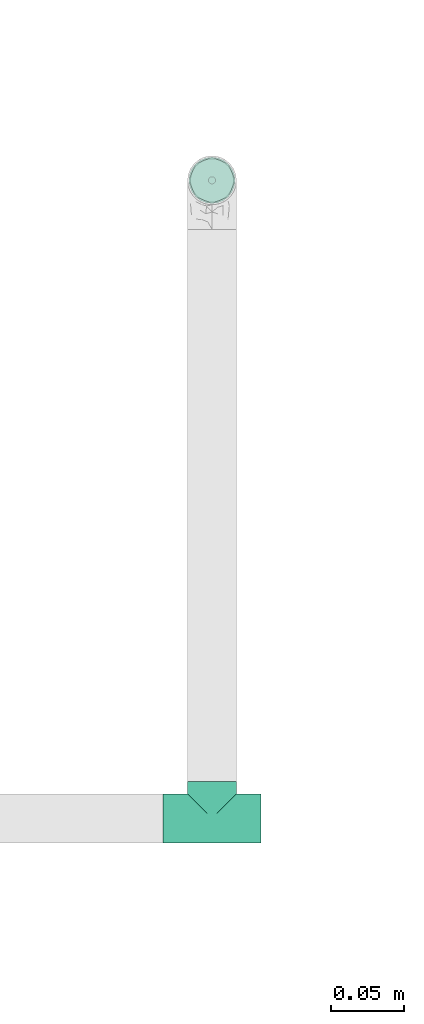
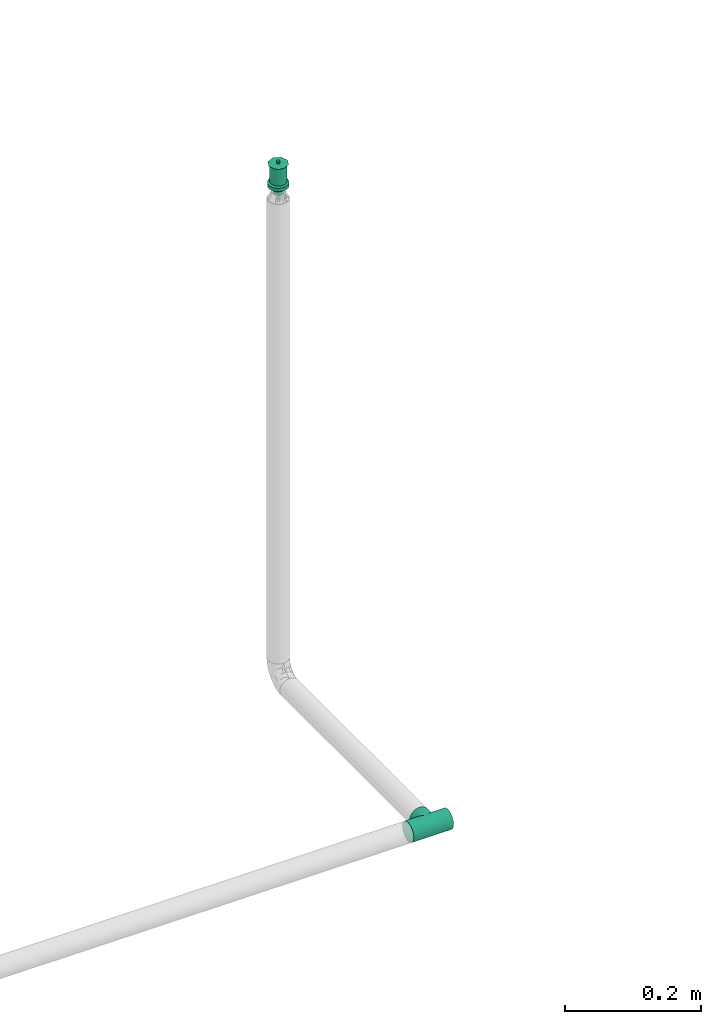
# One storey, part 71 of 94: 1 flow fitting, 1 flow terminal.
"""IFC2X3 building model written with IfcOpenShell, lengths in millimetres."""

from ifc_helpers import new_model, entity, si_unit, converted_unit, derived_unit, direction, frame, origin_with_axes, place, context, subcontext, project, spatial, open_shell, surface_model, source, transform, mapped, type_object, element, save


model = new_model("IFC2X3")

# Units and contexts
model_context = context("Model", 3, precision=0.01, world=frame((0.0, 4.29681676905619e-09, 0.0)), true_north=direction((4.01073788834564e-13, 1.0)))
plan_context = context("Plan", 3, precision=0.01, world=frame((0.0, 4.29681676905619e-09, 0.0)), true_north=direction((4.01073788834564e-13, 1.0)))
body_context = subcontext(model_context, "Body", "Model", "MODEL_VIEW")
ifc_project = project(units=[converted_unit("PLANEANGLEUNIT", "DEGREE", entity("IfcPositiveLengthMeasure", 0.0174532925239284), si_unit("PLANEANGLEUNIT", "RADIAN"), dimensions=[0, 0, 0, 0, 0, 0, 0]), si_unit("AREAUNIT", "SQUARE_METRE"), si_unit("LENGTHUNIT", "METRE", prefix="MILLI"), si_unit("MASSUNIT", "GRAM", prefix="KILO"), si_unit("POWERUNIT", "WATT"), si_unit("PRESSUREUNIT", "PASCAL", prefix="KILO"), si_unit("FORCEUNIT", "NEWTON", prefix="KILO"), si_unit("ELECTRICVOLTAGEUNIT", "VOLT"), si_unit("ELECTRICCURRENTUNIT", "AMPERE"), si_unit("THERMODYNAMICTEMPERATUREUNIT", "DEGREE_CELSIUS"), si_unit("TIMEUNIT", "SECOND"), si_unit("VOLUMEUNIT", "CUBIC_METRE"), derived_unit("LINEARVELOCITYUNIT", [(si_unit("LENGTHUNIT", "METRE"), 1), (si_unit("TIMEUNIT", "SECOND"), -1)]), derived_unit("VOLUMETRICFLOWRATEUNIT", [(si_unit("VOLUMEUNIT", "CUBIC_METRE"), 1), (si_unit("TIMEUNIT", "SECOND"), -1)]), derived_unit("THERMALTRANSMITTANCEUNIT", [(si_unit("POWERUNIT", "WATT"), 1), (si_unit("THERMODYNAMICTEMPERATUREUNIT", "KELVIN"), -1), (si_unit("AREAUNIT", "SQUARE_METRE"), -1)]), derived_unit("SOUNDPRESSUREUNIT", [(si_unit("PRESSUREUNIT", "PASCAL"), 1)])], contexts=[model_context, plan_context])

# Site, building, storey
site_placement = place(None, frame((0.0, -4.29681676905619e-09, 0.0), z_axis=(0.0, 0.0, 1.0), x_axis=(1.0, 0.0, 0.0)))
site = spatial("IfcSite", under=ifc_project, at=site_placement, CompositionType="ELEMENT")
building_placement = place(site_placement, frame((0.0, 4.29681676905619e-09, 0.0), z_axis=(0.0, 0.0, 1.0), x_axis=(1.0, 0.0, 0.0)))
building = spatial("IfcBuilding", under=site, at=building_placement, Name="mc-building", CompositionType="ELEMENT")
storey_placement = place(building_placement, frame((0.0, 0.0, 210900.0), z_axis=(0.0, 0.0, 1.0), x_axis=(1.0, 0.0, 0.0)))
storey = spatial("IfcBuildingStorey", under=building, at=storey_placement, Name="Nivå F", CompositionType="ELEMENT", Elevation=210900.0)

# Flow fitting
pipe_fitting_type = type_object("IfcPipeFittingType", Name="magi_pipe_fe_tee_centric_90_NOR", PredefinedType="JUNCTION")
shared_shape_1 = source(origin_with_axes(), body_context, "Body", "SurfaceModel", [
    surface_model("IfcShellBasedSurfaceModel", [(-33.8, 4.37404, -16.32415), (-33.8, 0.0, -16.9), (-33.8, 16.32415, -4.37404), (-33.8, 8.45, -14.63583), (-33.8, 11.9501, -11.9501), (-33.8, 14.63583, -8.45), (-33.8, -16.9, 0.0), (-33.8, -11.9501, -11.9501), (-33.8, -14.63583, -8.45), (-33.8, -8.45, -14.63583), (-33.8, -4.37404, -16.32415), (-33.8, -16.32415, -4.37404), (-33.8, 14.63583, 8.45), (-33.8, 16.32415, 4.37404), (-33.8, -8.45, 14.63583), (-33.8, 8.45, 14.63583), (-33.8, 11.9501, 11.9501), (-33.8, 4.37404, 16.32415), (-33.8, 0.0, 16.9), (-33.8, -11.9501, 11.9501), (-33.8, -14.63583, 8.45), (-33.8, -16.32415, 4.37404), (-33.8, -4.37404, 16.32415), (-33.8, 16.9, 0.0), (33.8, 4.37404, -16.32415), (33.8, -16.9, 0.0), (33.8, 0.0, -16.9), (33.8, 14.63583, -8.45), (33.8, 8.45, -14.63583), (33.8, 16.32415, -4.37404), (33.8, 11.9501, -11.9501), (33.8, -16.32415, 4.37404), (33.8, -8.45, -14.63583), (33.8, -4.37404, -16.32415), (33.8, -11.9501, -11.9501), (33.8, -14.63583, -8.45), (33.8, -16.32415, -4.37404), (33.8, 16.32415, 4.37404), (33.8, 8.45, 14.63583), (33.8, 14.63583, 8.45), (33.8, 11.9501, 11.9501), (33.8, -8.45, 14.63583), (33.8, 4.37404, 16.32415), (33.8, -14.63583, 8.45), (33.8, -11.9501, 11.9501), (33.8, 0.0, 16.9), (33.8, -4.37404, 16.32415), (33.8, 16.9, 0.0), (16.28698, -16.28698, 4.51047), (16.9, -16.9, 0.0), (14.62704, -14.62704, 8.4652), (9.47213, -9.47213, 13.99602), (12.26343, -12.26343, 11.62834), (-16.9, -16.9, 0.0), (-16.28698, -16.28698, 4.51047), (-14.62704, -14.62704, 8.4652), (-12.26343, -12.26343, 11.62834), (-9.47213, -9.47213, 13.99602), (-6.42894, -6.42894, 15.62942), (6.42894, -6.42894, 15.62942), (3.24522, -3.24522, 16.58549), (0.0, 0.0, 16.9), (-3.24522, -3.24522, 16.58549), (3.24522, -3.24522, -16.58549), (0.0, 0.0, -16.9), (-3.24522, -3.24522, -16.58549), (-6.42894, -6.42894, -15.62942), (6.42894, -6.42894, -15.62942), (9.47213, -9.47213, -13.99602), (12.26343, -12.26343, -11.62834), (14.62704, -14.62704, -8.4652), (16.28698, -16.28698, -4.51047), (-9.47213, -9.47213, -13.99602), (-12.26343, -12.26343, -11.62834), (-16.28698, -16.28698, -4.51047), (-14.62704, -14.62704, -8.4652), (4.37404, -25.35, -16.32415), (-16.9, -25.35, 0.0), (0.0, -25.35, -16.9), (14.63583, -25.35, -8.45), (8.45, -25.35, -14.63583), (16.32415, -25.35, -4.37404), (11.9501, -25.35, -11.9501), (-11.9501, -25.35, -11.9501), (-8.45, -25.35, -14.63583), (-4.37404, -25.35, -16.32415), (-14.63583, -25.35, -8.45), (-16.32415, -25.35, -4.37404), (16.9, -25.35, 0.0), (8.45, -25.35, 14.63583), (16.32415, -25.35, 4.37404), (14.63583, -25.35, 8.45), (-8.45, -25.35, 14.63583), (11.9501, -25.35, 11.9501), (4.37404, -25.35, 16.32415), (-16.32415, -25.35, 4.37404), (-11.9501, -25.35, 11.9501), (-14.63583, -25.35, 8.45), (0.0, -25.35, 16.9), (-4.37404, -25.35, 16.32415)], [open_shell([[[0, 1, 2]], [[3, 0, 4]], [[0, 2, 5]], [[4, 0, 5]], [[6, 2, 1]], [[7, 8, 9]], [[1, 10, 9]], [[11, 6, 8]], [[1, 9, 8]], [[1, 8, 6]], [[6, 12, 2]], [[12, 13, 2]], [[14, 12, 6]], [[12, 14, 15]], [[16, 12, 15]], [[17, 15, 18]], [[19, 14, 20]], [[21, 20, 14]], [[22, 18, 14]], [[14, 6, 21]], [[14, 18, 15]], [[23, 2, 13]], [[24, 25, 26]], [[27, 24, 28]], [[27, 29, 24]], [[27, 28, 30]], [[31, 25, 24]], [[26, 32, 33]], [[26, 34, 32]], [[35, 25, 36]], [[35, 34, 26]], [[25, 35, 26]], [[24, 29, 31]], [[29, 37, 38]], [[38, 37, 39]], [[38, 31, 29]], [[38, 39, 40]], [[41, 38, 42]], [[43, 41, 44]], [[41, 43, 31]], [[41, 45, 46]], [[41, 31, 38]], [[42, 45, 41]], [[29, 47, 37]], [[31, 43, 48]], [[25, 31, 49]], [[49, 31, 48]], [[43, 50, 48]], [[44, 41, 51]], [[50, 43, 52]], [[51, 52, 44]], [[52, 43, 44]], [[53, 54, 21]], [[53, 21, 6]], [[21, 54, 20]], [[54, 55, 20]], [[56, 57, 19]], [[19, 20, 56]], [[19, 57, 14]], [[56, 20, 55]], [[14, 57, 58]], [[51, 41, 59]], [[60, 45, 61]], [[59, 46, 60]], [[46, 59, 41]], [[60, 46, 45]], [[61, 45, 42]], [[39, 37, 13]], [[16, 38, 40]], [[12, 40, 39]], [[42, 38, 15]], [[23, 37, 47]], [[62, 61, 18]], [[62, 22, 58]], [[22, 62, 18]], [[58, 22, 14]], [[61, 17, 18]], [[42, 17, 61]], [[15, 17, 42]], [[15, 38, 16]], [[12, 16, 40]], [[13, 12, 39]], [[37, 23, 13]], [[5, 27, 30]], [[23, 47, 29]], [[30, 28, 3]], [[27, 2, 29]], [[26, 33, 63]], [[26, 64, 24]], [[64, 26, 63]], [[28, 24, 0]], [[64, 0, 24]], [[4, 30, 3]], [[2, 27, 5]], [[5, 30, 4]], [[2, 23, 29]], [[65, 66, 10]], [[1, 0, 64]], [[1, 65, 10]], [[66, 9, 10]], [[0, 3, 28]], [[1, 64, 65]], [[63, 33, 67]], [[32, 34, 68]], [[69, 68, 34]], [[35, 70, 69]], [[69, 34, 35]], [[32, 68, 67]], [[36, 25, 49]], [[36, 71, 35]], [[71, 36, 49]], [[35, 71, 70]], [[72, 9, 66]], [[72, 7, 9]], [[7, 72, 73]], [[7, 73, 8]], [[74, 53, 11]], [[75, 74, 8]], [[74, 11, 8]], [[11, 53, 6]], [[75, 8, 73]], [[32, 67, 33]], [[76, 77, 78]], [[79, 76, 80]], [[79, 81, 76]], [[79, 80, 82]], [[77, 76, 81]], [[78, 83, 84]], [[84, 85, 78]], [[86, 77, 87]], [[83, 78, 86]], [[77, 86, 78]], [[81, 88, 77]], [[89, 88, 90]], [[89, 90, 91]], [[92, 77, 89]], [[89, 91, 93]], [[92, 89, 94]], [[95, 96, 97]], [[96, 95, 92]], [[92, 98, 99]], [[95, 77, 92]], [[94, 98, 92]], [[89, 77, 88]], [[77, 95, 53]], [[54, 53, 95]], [[97, 96, 56]], [[96, 92, 57]], [[95, 97, 54]], [[58, 92, 99]], [[55, 54, 97]], [[56, 55, 97]], [[58, 57, 92]], [[98, 61, 62]], [[58, 99, 62]], [[56, 96, 57]], [[62, 99, 98]], [[94, 60, 98]], [[89, 59, 94]], [[91, 90, 48]], [[52, 93, 91]], [[93, 51, 89]], [[49, 90, 88]], [[59, 60, 94]], [[51, 59, 89]], [[49, 48, 90]], [[50, 52, 91]], [[48, 50, 91]], [[51, 93, 52]], [[98, 60, 61]], [[88, 81, 49]], [[71, 49, 81]], [[79, 82, 69]], [[82, 80, 68]], [[81, 79, 71]], [[67, 80, 76]], [[70, 71, 79]], [[69, 70, 79]], [[67, 68, 80]], [[78, 64, 63]], [[67, 76, 63]], [[69, 82, 68]], [[63, 76, 78]], [[85, 65, 78]], [[84, 66, 85]], [[86, 87, 74]], [[86, 73, 83]], [[72, 84, 83]], [[53, 87, 77]], [[66, 65, 85]], [[72, 66, 84]], [[53, 74, 87]], [[75, 73, 86]], [[74, 75, 86]], [[72, 83, 73]], [[78, 65, 64]]])]),
])
flow_fitting_placement = place(storey_placement, frame((729113.64461, 441112.69714, 3500.0), z_axis=(0.0, 0.0, -1.0), x_axis=(1.0, 0.0, 0.0)))
element("IfcFlowFitting", 1, at=flow_fitting_placement, inside=storey, type_object=pipe_fitting_type, Name="magi_pipe_fe_tee_centric_90_NOR", context=body_context, shape_type="MappedRepresentation", body=[
    mapped(shared_shape_1, transform((0.0, 0.0, 0.0), scale=1.0)),
])

# Flow terminal
fire_suppression_terminal_type = type_object("IfcFireSuppressionTerminalType", Name="68DGR-STD-STÅENDE", PredefinedType="NOTDEFINED")
shared_shape_2 = source(origin_with_axes(), body_context, "Body", "SurfaceModel", [
    surface_model("IfcShellBasedSurfaceModel", [(3.36465, -12.55704, 51.0), (6.5, -11.25833, 51.0), (9.19239, -9.19239, 51.0), (12.55704, -3.36465, 51.0), (-11.25833, -6.5, 51.0), (11.25833, -6.5, 51.0), (-13.0, 0.0, 51.0), (0.0, -13.0, 51.0), (-6.5, -11.25833, 51.0), (-3.36465, -12.55704, 51.0), (-9.19239, -9.19239, 51.0), (-12.55704, -3.36465, 51.0), (13.0, 0.0, 51.0), (12.55704, 3.36465, 51.0), (11.25833, 6.5, 51.0), (9.19239, 9.19239, 51.0), (6.5, 11.25833, 51.0), (3.36465, 12.55704, 51.0), (0.0, 13.0, 51.0), (-3.36465, 12.55704, 51.0), (-12.55704, 3.36465, 51.0), (-9.19239, 9.19239, 51.0), (-11.25833, 6.5, 51.0), (-6.5, 11.25833, 51.0), (0.0, 13.0, 21.14766), (3.36465, 12.55704, 21.14766), (6.5, 11.25833, 21.14766), (-3.36465, 12.55704, 21.14766), (9.19239, 9.19239, 21.14766), (11.25833, 6.5, 21.14766), (12.55704, 3.36465, 21.14766), (-12.55704, 3.36465, 21.14766), (-11.25833, -6.5, 21.14766), (-9.19239, 9.19239, 21.14766), (-6.5, 11.25833, 21.14766), (-11.25833, 6.5, 21.14766), (-13.0, 0.0, 21.14766), (12.55704, -3.36465, 21.14766), (9.19239, -9.19239, 21.14766), (11.25833, -6.5, 21.14766), (6.5, -11.25833, 21.14766), (3.36465, -12.55704, 21.14766), (-6.5, -11.25833, 21.14766), (-9.19239, -9.19239, 21.14766), (-12.55704, -3.36465, 21.14766), (0.0, -13.0, 21.14766), (-3.36465, -12.55704, 21.14766), (13.0, 0.0, 21.14766), (7.24444, -1.94114, 0.1), (1.94114, -7.24444, 0.1), (3.75, -6.49519, 0.1), (5.3033, -5.3033, 0.1), (-5.3033, -5.3033, 0.1), (6.49519, -3.75, 0.1), (5.3033, 5.3033, 0.1), (0.0, -7.5, 0.1), (-3.75, -6.49519, 0.1), (-1.94114, -7.24444, 0.1), (-7.24444, -1.94114, 0.1), (-6.49519, -3.75, 0.1), (-7.24444, 1.94114, 0.1), (7.5, 0.0, 0.1), (6.49519, 3.75, 0.1), (-6.49519, 3.75, 0.1), (1.94114, 7.24444, 0.1), (0.0, 7.5, 0.1), (3.75, 6.49519, 0.1), (-7.5, 0.0, 0.1), (-5.3033, 5.3033, 0.1), (-1.94114, 7.24444, 0.1), (-3.75, 6.49519, 0.1), (7.24444, 1.94114, 0.1), (1.94114, 7.24444, -0.1), (-6.49519, 3.75, -0.1), (0.0, 7.5, -0.1), (5.3033, 5.3033, -0.1), (3.75, 6.49519, -0.1), (6.49519, 3.75, -0.1), (7.24444, 1.94114, -0.1), (-1.94114, 7.24444, -0.1), (-5.3033, 5.3033, -0.1), (-3.75, 6.49519, -0.1), (-7.24444, 1.94114, -0.1), (-7.24444, -1.94114, -0.1), (-7.5, 0.0, -0.1), (7.5, 0.0, -0.1), (7.24444, -1.94114, -0.1), (-5.3033, -5.3033, -0.1), (1.94114, -7.24444, -0.1), (6.49519, -3.75, -0.1), (5.3033, -5.3033, -0.1), (3.75, -6.49519, -0.1), (-6.49519, -3.75, -0.1), (-3.75, -6.49519, -0.1), (0.0, -7.5, -0.1), (-1.94114, -7.24444, -0.1), (0.0, -2.5, 51.0), (-2.5, 0.0, 51.0), (0.0, 2.5, 51.0), (2.5, 0.0, 51.0), (0.0, -16.0, 53.0), (11.31371, -11.31371, 53.0), (-11.31371, -11.31371, 53.0), (-16.0, 0.0, 53.0), (16.0, 0.0, 53.0), (11.31371, 11.31371, 53.0), (0.0, 16.0, 53.0), (-11.31371, 11.31371, 53.0), (1.25, -2.16506, 57.0), (0.0, -2.5, 57.0), (0.64705, -2.41481, 57.0), (2.41481, -0.64705, 57.0), (1.76777, -1.76777, 57.0), (-2.41481, -0.64705, 57.0), (-2.5, 0.0, 57.0), (2.16506, -1.25, 57.0), (-1.25, -2.16506, 57.0), (-0.64705, -2.41481, 57.0), (-1.76777, -1.76777, 57.0), (-2.16506, -1.25, 57.0), (2.5, 0.0, 57.0), (2.41481, 0.64705, 57.0), (2.16506, 1.25, 57.0), (1.76777, 1.76777, 57.0), (0.64705, 2.41481, 57.0), (1.25, 2.16506, 57.0), (-1.76777, 1.76777, 57.0), (0.0, 2.5, 57.0), (-2.16506, 1.25, 57.0), (-2.41481, 0.64705, 57.0), (-0.64705, 2.41481, 57.0), (-1.25, 2.16506, 57.0), (1.25, 2.16506, 51.0), (1.76777, 1.76777, 51.0), (1.15, 1.99186, 51.0), (0.59528, 2.22163, 51.0), (0.64705, 2.41481, 51.0), (0.0, 2.3, 51.0), (1.62635, 1.62635, 51.0), (2.41481, 0.64705, 51.0), (2.3, 0.0, 51.0), (2.22163, 0.59528, 51.0), (2.16506, 1.25, 51.0), (1.99186, 1.15, 51.0), (-0.59528, 2.22163, 51.0), (-0.64705, 2.41481, 51.0), (-1.15, 1.99186, 51.0), (-1.76777, 1.76777, 51.0), (-1.25, 2.16506, 51.0), (-1.62635, 1.62635, 51.0), (-1.99186, 1.15, 51.0), (-2.16506, 1.25, 51.0), (-2.22163, 0.59528, 51.0), (-2.41481, 0.64705, 51.0), (-2.3, 0.0, 51.0), (2.41481, -0.64705, 51.0), (2.22163, -0.59528, 51.0), (1.99186, -1.15, 51.0), (2.16506, -1.25, 51.0), (1.62635, -1.62635, 51.0), (1.76777, -1.76777, 51.0), (1.25, -2.16506, 51.0), (1.15, -1.99186, 51.0), (0.59528, -2.22163, 51.0), (0.64705, -2.41481, 51.0), (0.0, -2.3, 51.0), (-2.16506, -1.25, 51.0), (-1.99186, -1.15, 51.0), (-1.76777, -1.76777, 51.0), (-1.62635, -1.62635, 51.0), (-2.41481, -0.64705, 51.0), (-2.22163, -0.59528, 51.0), (-0.59528, -2.22163, 51.0), (-0.64705, -2.41481, 51.0), (-1.15, -1.99186, 51.0), (-1.25, -2.16506, 51.0), (1.62635, -1.62635, 56.8), (1.15, -1.99186, 56.8), (0.59528, -2.22163, 56.8), (0.0, -2.3, 56.8), (2.22163, 0.59528, 56.8), (1.99186, -1.15, 56.8), (2.22163, -0.59528, 56.8), (-0.59528, -2.22163, 56.8), (-1.15, -1.99186, 56.8), (-1.62635, -1.62635, 56.8), (-1.99186, -1.15, 56.8), (-2.22163, -0.59528, 56.8), (-1.99186, 1.15, 56.8), (2.3, 0.0, 56.8), (1.62635, 1.62635, 56.8), (1.99186, 1.15, 56.8), (1.15, 1.99186, 56.8), (0.0, 2.3, 56.8), (0.59528, 2.22163, 56.8), (-2.22163, 0.59528, 56.8), (-2.3, 0.0, 56.8), (-1.15, 1.99186, 56.8), (-0.59528, 2.22163, 56.8), (-1.62635, 1.62635, 56.8), (4.1411, -15.45481, 19.0), (8.0, -13.85641, 19.0), (11.31371, -11.31371, 19.0), (-8.0, -13.85641, 19.0), (15.45481, -4.1411, 19.0), (16.0, 0.0, 19.0), (13.85641, -8.0, 19.0), (0.0, -16.0, 19.0), (-4.1411, -15.45481, 19.0), (-13.85641, -8.0, 19.0), (-11.31371, -11.31371, 19.0), (-15.45481, -4.1411, 19.0), (15.45481, 4.1411, 19.0), (13.85641, 8.0, 19.0), (11.31371, 11.31371, 19.0), (-4.1411, 15.45481, 19.0), (8.0, 13.85641, 19.0), (4.1411, 15.45481, 19.0), (0.0, 16.0, 19.0), (-13.85641, 8.0, 19.0), (-15.45481, 4.1411, 19.0), (-16.0, 0.0, 19.0), (-11.31371, 11.31371, 19.0), (-8.0, 13.85641, 19.0), (0.0, 16.0, 13.0), (4.1411, 15.45481, 13.0), (8.0, 13.85641, 13.0), (-4.1411, 15.45481, 13.0), (11.31371, 11.31371, 13.0), (13.85641, 8.0, 13.0), (15.45481, 4.1411, 13.0), (-15.45481, -4.1411, 13.0), (-11.31371, 11.31371, 13.0), (-8.0, 13.85641, 13.0), (-13.85641, 8.0, 13.0), (-15.45481, 4.1411, 13.0), (-16.0, 0.0, 13.0), (4.1411, -15.45481, 13.0), (16.0, 0.0, 13.0), (15.45481, -4.1411, 13.0), (13.85641, -8.0, 13.0), (11.31371, -11.31371, 13.0), (8.0, -13.85641, 13.0), (-8.0, -13.85641, 13.0), (-13.85641, -8.0, 13.0), (-11.31371, -11.31371, 13.0), (0.0, -16.0, 13.0), (-4.1411, -15.45481, 13.0), (7.24444, -1.94114, 13.0), (1.94114, -7.24444, 13.0), (3.75, -6.49519, 13.0), (5.3033, -5.3033, 13.0), (-5.3033, -5.3033, 13.0), (6.49519, -3.75, 13.0), (5.3033, 5.3033, 13.0), (0.0, -7.5, 13.0), (-3.75, -6.49519, 13.0), (-1.94114, -7.24444, 13.0), (-7.24444, -1.94114, 13.0), (-6.49519, -3.75, 13.0), (-7.24444, 1.94114, 13.0), (7.5, 0.0, 13.0), (6.49519, 3.75, 13.0), (-6.49519, 3.75, 13.0), (1.94114, 7.24444, 13.0), (0.0, 7.5, 13.0), (3.75, 6.49519, 13.0), (-7.5, 0.0, 13.0), (-5.3033, 5.3033, 13.0), (-1.94114, 7.24444, 13.0), (-3.75, 6.49519, 13.0), (7.24444, 1.94114, 13.0), (3.75, 6.49519, 0.0), (5.3033, 5.3033, 0.0), (3.65, 6.32199, 0.0), (1.88938, 7.05126, 0.0), (0.0, 7.3, 0.0), (1.94114, 7.24444, 0.0), (0.0, 7.5, 0.0), (5.16188, 5.16188, 0.0), (7.24444, 1.94114, 0.0), (7.3, 0.0, 0.0), (7.05126, 1.88938, 0.0), (7.5, 0.0, 0.0), (6.49519, 3.75, 0.0), (6.32199, 3.65, 0.0), (-1.88938, 7.05126, 0.0), (-1.94114, 7.24444, 0.0), (-3.65, 6.32199, 0.0), (-5.3033, 5.3033, 0.0), (-3.75, 6.49519, 0.0), (-5.16188, 5.16188, 0.0), (-6.32199, 3.65, 0.0), (-6.49519, 3.75, 0.0), (-7.05126, 1.88938, 0.0), (-7.24444, 1.94114, 0.0), (-7.3, 0.0, 0.0), (-7.5, 0.0, 0.0), (7.24444, -1.94114, 0.0), (7.05126, -1.88938, 0.0), (6.32199, -3.65, 0.0), (6.49519, -3.75, 0.0), (5.16188, -5.16188, 0.0), (5.3033, -5.3033, 0.0), (3.75, -6.49519, 0.0), (3.65, -6.32199, 0.0), (1.88938, -7.05126, 0.0), (1.94114, -7.24444, 0.0), (0.0, -7.3, 0.0), (0.0, -7.5, 0.0), (-6.49519, -3.75, 0.0), (-6.32199, -3.65, 0.0), (-5.3033, -5.3033, 0.0), (-5.16188, -5.16188, 0.0), (-7.24444, -1.94114, 0.0), (-7.05126, -1.88938, 0.0), (-1.88938, -7.05126, 0.0), (-1.94114, -7.24444, 0.0), (-3.65, -6.32199, 0.0), (-3.75, -6.49519, 0.0), (1.88938, -7.05126, 12.8), (0.0, -7.3, 12.8), (3.65, -6.32199, 12.8), (5.16188, -5.16188, 12.8), (6.32199, -3.65, 12.8), (7.05126, 1.88938, 12.8), (7.05126, -1.88938, 12.8), (-5.16188, -5.16188, 12.8), (-1.88938, -7.05126, 12.8), (-3.65, -6.32199, 12.8), (-6.32199, -3.65, 12.8), (-7.05126, -1.88938, 12.8), (0.0, 7.3, 12.8), (7.3, 0.0, 12.8), (6.32199, 3.65, 12.8), (5.16188, 5.16188, 12.8), (3.65, 6.32199, 12.8), (1.88938, 7.05126, 12.8), (-6.32199, 3.65, 12.8), (-7.05126, 1.88938, 12.8), (-7.3, 0.0, 12.8), (-3.65, 6.32199, 12.8), (-1.88938, 7.05126, 12.8), (-5.16188, 5.16188, 12.8)], [open_shell([[[0, 1, 2]], [[0, 2, 3]], [[0, 3, 4]], [[3, 2, 5]], [[6, 4, 3]], [[7, 8, 9]], [[7, 0, 8]], [[8, 4, 10]], [[0, 4, 8]], [[4, 6, 11]], [[6, 3, 12]], [[13, 14, 15]], [[6, 13, 15]], [[16, 17, 18]], [[15, 16, 19]], [[18, 19, 16]], [[20, 21, 22]], [[20, 6, 15]], [[21, 19, 23]], [[19, 21, 20]], [[15, 19, 20]], [[13, 6, 12]], [[24, 25, 26]], [[27, 24, 26]], [[28, 29, 30]], [[26, 28, 31]], [[28, 32, 31]], [[27, 33, 34]], [[33, 27, 31]], [[33, 31, 35]], [[27, 26, 31]], [[31, 32, 36]], [[32, 28, 30]], [[32, 30, 37]], [[38, 37, 39]], [[38, 40, 41]], [[38, 41, 37]], [[32, 37, 41]], [[32, 42, 43]], [[44, 36, 32]], [[42, 45, 46]], [[42, 32, 41]], [[45, 42, 41]], [[30, 47, 37]], [[4, 32, 43]], [[8, 42, 46]], [[43, 42, 10]], [[9, 46, 45]], [[36, 11, 6]], [[11, 36, 44]], [[11, 44, 4]], [[44, 32, 4]], [[43, 10, 4]], [[8, 10, 42]], [[46, 9, 8]], [[45, 7, 9]], [[0, 41, 40]], [[38, 1, 40]], [[5, 39, 37]], [[38, 39, 2]], [[3, 37, 47]], [[41, 0, 7]], [[40, 1, 0]], [[38, 2, 1]], [[39, 5, 2]], [[3, 5, 37]], [[47, 12, 3]], [[41, 7, 45]], [[30, 13, 47]], [[29, 14, 30]], [[25, 24, 17]], [[15, 29, 28]], [[30, 14, 13]], [[13, 12, 47]], [[16, 26, 17]], [[16, 15, 28]], [[26, 25, 17]], [[15, 14, 29]], [[28, 26, 16]], [[24, 18, 17]], [[19, 27, 34]], [[33, 23, 34]], [[22, 35, 31]], [[33, 35, 21]], [[20, 31, 36]], [[27, 19, 18]], [[34, 23, 19]], [[33, 21, 23]], [[35, 22, 21]], [[20, 22, 31]], [[36, 6, 20]], [[27, 18, 24]], [[48, 49, 50]], [[48, 50, 51]], [[49, 48, 52]], [[48, 51, 53]], [[54, 52, 48]], [[55, 56, 57]], [[56, 55, 52]], [[52, 58, 59]], [[52, 55, 49]], [[52, 60, 58]], [[54, 48, 61]], [[62, 54, 61]], [[54, 63, 52]], [[64, 65, 54]], [[64, 54, 66]], [[63, 54, 65]], [[63, 60, 52]], [[67, 58, 60]], [[68, 69, 70]], [[69, 68, 63]], [[69, 63, 65]], [[71, 62, 61]], [[72, 73, 74]], [[75, 72, 76]], [[75, 77, 78]], [[72, 75, 73]], [[78, 73, 75]], [[79, 80, 81]], [[80, 79, 73]], [[74, 73, 79]], [[78, 82, 73]], [[82, 83, 84]], [[82, 78, 85]], [[86, 87, 85]], [[88, 86, 89]], [[90, 91, 88]], [[90, 88, 89]], [[87, 86, 88]], [[83, 87, 92]], [[83, 85, 87]], [[93, 94, 95]], [[94, 93, 87]], [[88, 94, 87]], [[85, 83, 82]], [[83, 58, 84]], [[92, 59, 83]], [[56, 87, 93]], [[92, 87, 52]], [[57, 93, 95]], [[83, 59, 58]], [[58, 67, 84]], [[57, 56, 93]], [[52, 87, 56]], [[52, 59, 92]], [[55, 57, 95]], [[95, 94, 55]], [[88, 49, 94]], [[91, 50, 88]], [[53, 90, 89]], [[91, 90, 51]], [[48, 89, 86]], [[91, 51, 50]], [[50, 49, 88]], [[61, 48, 86]], [[53, 89, 48]], [[53, 51, 90]], [[85, 61, 86]], [[94, 49, 55]], [[78, 71, 85]], [[77, 62, 78]], [[66, 75, 76]], [[77, 75, 54]], [[64, 76, 72]], [[78, 62, 71]], [[71, 61, 85]], [[64, 66, 76]], [[54, 75, 66]], [[54, 62, 77]], [[65, 64, 72]], [[72, 74, 65]], [[79, 69, 74]], [[81, 70, 79]], [[63, 80, 73]], [[81, 80, 68]], [[60, 73, 82]], [[81, 68, 70]], [[70, 69, 79]], [[67, 60, 82]], [[63, 73, 60]], [[63, 68, 80]], [[84, 67, 82]], [[74, 69, 65]], [[96, 97, 98]], [[98, 99, 96]], [[100, 101, 102]], [[103, 102, 101]], [[101, 104, 103]], [[104, 105, 106]], [[107, 103, 106]], [[106, 103, 104]], [[99, 98, 105]], [[105, 104, 99]], [[98, 106, 105]], [[98, 107, 106]], [[107, 98, 97]], [[103, 107, 97]], [[97, 96, 102]], [[102, 103, 97]], [[96, 100, 102]], [[96, 101, 100]], [[101, 96, 99]], [[104, 101, 99]], [[108, 109, 110]], [[111, 108, 112]], [[113, 108, 114]], [[111, 112, 115]], [[108, 111, 114]], [[109, 116, 117]], [[116, 109, 118]], [[118, 113, 119]], [[118, 109, 108]], [[108, 113, 118]], [[111, 120, 114]], [[121, 122, 123]], [[114, 121, 123]], [[114, 123, 124]], [[124, 123, 125]], [[126, 124, 127]], [[124, 128, 129]], [[129, 114, 124]], [[126, 130, 131]], [[128, 124, 126]], [[130, 126, 127]], [[121, 114, 120]], [[132, 133, 134]], [[132, 134, 135]], [[136, 135, 137]], [[135, 136, 132]], [[136, 137, 98]], [[134, 133, 138]], [[139, 140, 141]], [[140, 139, 99]], [[139, 141, 142]], [[138, 142, 143]], [[142, 138, 133]], [[143, 142, 141]], [[98, 144, 145]], [[98, 137, 144]], [[145, 144, 146]], [[147, 148, 149]], [[146, 148, 145]], [[149, 148, 146]], [[150, 151, 147]], [[151, 150, 152]], [[150, 147, 149]], [[153, 152, 154]], [[152, 153, 151]], [[153, 154, 97]], [[99, 155, 156]], [[156, 155, 157]], [[157, 158, 159]], [[158, 157, 155]], [[159, 158, 160]], [[160, 161, 162]], [[162, 161, 163]], [[163, 164, 165]], [[164, 163, 161]], [[165, 164, 96]], [[162, 159, 160]], [[166, 167, 168]], [[168, 167, 169]], [[167, 166, 170]], [[97, 171, 170]], [[170, 171, 167]], [[97, 154, 171]], [[172, 96, 173]], [[172, 173, 174]], [[169, 175, 168]], [[175, 169, 174]], [[175, 174, 173]], [[165, 96, 172]], [[156, 140, 99]], [[170, 113, 97]], [[166, 119, 170]], [[116, 168, 175]], [[166, 168, 118]], [[117, 175, 173]], [[170, 119, 113]], [[113, 114, 97]], [[117, 116, 175]], [[118, 168, 116]], [[118, 119, 166]], [[109, 117, 173]], [[173, 96, 109]], [[164, 110, 96]], [[161, 108, 164]], [[115, 160, 158]], [[161, 160, 112]], [[111, 158, 155]], [[161, 112, 108]], [[108, 110, 164]], [[120, 111, 155]], [[115, 158, 111]], [[115, 112, 160]], [[99, 120, 155]], [[96, 110, 109]], [[139, 121, 99]], [[142, 122, 139]], [[125, 133, 132]], [[142, 133, 123]], [[124, 132, 136]], [[139, 122, 121]], [[121, 120, 99]], [[124, 125, 132]], [[123, 133, 125]], [[123, 122, 142]], [[127, 124, 136]], [[136, 98, 127]], [[145, 130, 98]], [[148, 131, 145]], [[128, 147, 151]], [[148, 147, 126]], [[129, 151, 153]], [[148, 126, 131]], [[131, 130, 145]], [[114, 129, 153]], [[128, 151, 129]], [[128, 126, 147]], [[97, 114, 153]], [[98, 130, 127]], [[176, 177, 178]], [[176, 178, 179]], [[180, 176, 179]], [[181, 176, 182]], [[180, 182, 176]], [[183, 184, 179]], [[185, 179, 184]], [[186, 187, 185]], [[185, 187, 188]], [[179, 185, 188]], [[189, 182, 180]], [[190, 191, 180]], [[192, 190, 180]], [[193, 194, 192]], [[180, 193, 192]], [[188, 193, 180]], [[195, 188, 196]], [[196, 188, 187]], [[197, 198, 199]], [[188, 199, 198]], [[188, 198, 193]], [[180, 179, 188]], [[154, 187, 171]], [[171, 186, 167]], [[174, 169, 184]], [[185, 169, 167]], [[172, 174, 183]], [[187, 186, 171]], [[154, 196, 187]], [[174, 184, 183]], [[184, 169, 185]], [[167, 186, 185]], [[172, 183, 179]], [[179, 165, 172]], [[165, 178, 163]], [[163, 177, 162]], [[157, 159, 181]], [[176, 159, 162]], [[156, 157, 182]], [[177, 176, 162]], [[163, 178, 177]], [[156, 182, 189]], [[182, 157, 181]], [[159, 176, 181]], [[156, 189, 140]], [[179, 178, 165]], [[140, 180, 141]], [[141, 191, 143]], [[134, 138, 192]], [[190, 138, 143]], [[135, 134, 194]], [[180, 191, 141]], [[140, 189, 180]], [[134, 192, 194]], [[192, 138, 190]], [[143, 191, 190]], [[135, 194, 193]], [[193, 137, 135]], [[137, 198, 144]], [[144, 197, 146]], [[150, 149, 188]], [[199, 149, 146]], [[152, 150, 195]], [[197, 199, 146]], [[144, 198, 197]], [[152, 195, 196]], [[195, 150, 188]], [[149, 199, 188]], [[152, 196, 154]], [[193, 198, 137]], [[200, 201, 202]], [[203, 200, 202]], [[204, 205, 202]], [[204, 202, 206]], [[203, 202, 205]], [[207, 203, 208]], [[207, 200, 203]], [[203, 209, 210]], [[209, 203, 211]], [[205, 211, 203]], [[205, 212, 211]], [[212, 213, 214]], [[215, 212, 214]], [[216, 217, 218]], [[214, 216, 215]], [[218, 215, 216]], [[211, 219, 220]], [[221, 211, 220]], [[222, 215, 223]], [[215, 222, 219]], [[219, 211, 215]], [[211, 212, 215]], [[224, 225, 226]], [[227, 224, 226]], [[228, 229, 230]], [[227, 226, 228]], [[227, 228, 231]], [[227, 232, 233]], [[232, 227, 234]], [[234, 231, 235]], [[231, 234, 227]], [[235, 231, 236]], [[228, 230, 231]], [[237, 238, 239]], [[237, 239, 240]], [[241, 242, 237]], [[241, 237, 240]], [[238, 237, 243]], [[244, 243, 245]], [[243, 244, 231]], [[243, 246, 247]], [[243, 231, 238]], [[237, 246, 243]], [[238, 231, 230]], [[231, 211, 236]], [[244, 209, 231]], [[203, 245, 243]], [[244, 245, 210]], [[208, 243, 247]], [[231, 209, 211]], [[211, 221, 236]], [[208, 203, 243]], [[210, 245, 203]], [[210, 209, 244]], [[207, 208, 247]], [[247, 246, 207]], [[237, 200, 246]], [[242, 201, 237]], [[206, 241, 240]], [[242, 241, 202]], [[204, 240, 239]], [[242, 202, 201]], [[201, 200, 237]], [[205, 204, 239]], [[206, 240, 204]], [[206, 202, 241]], [[238, 205, 239]], [[246, 200, 207]], [[230, 212, 238]], [[229, 213, 230]], [[216, 228, 226]], [[229, 228, 214]], [[217, 226, 225]], [[230, 213, 212]], [[212, 205, 238]], [[217, 216, 226]], [[214, 228, 216]], [[214, 213, 229]], [[218, 217, 225]], [[225, 224, 218]], [[227, 215, 224]], [[233, 223, 227]], [[219, 232, 234]], [[233, 232, 222]], [[220, 234, 235]], [[233, 222, 223]], [[223, 215, 227]], [[221, 220, 235]], [[219, 234, 220]], [[219, 222, 232]], [[236, 221, 235]], [[224, 215, 218]], [[248, 249, 250]], [[248, 250, 251]], [[249, 248, 252]], [[248, 251, 253]], [[254, 252, 248]], [[255, 256, 257]], [[256, 255, 252]], [[252, 258, 259]], [[252, 255, 249]], [[252, 260, 258]], [[254, 248, 261]], [[262, 254, 261]], [[254, 263, 252]], [[264, 265, 254]], [[264, 254, 266]], [[263, 254, 265]], [[263, 260, 252]], [[267, 258, 260]], [[268, 269, 270]], [[269, 268, 263]], [[269, 263, 265]], [[271, 262, 261]], [[272, 273, 274]], [[272, 274, 275]], [[276, 277, 275]], [[277, 276, 278]], [[275, 277, 272]], [[274, 273, 279]], [[280, 281, 282]], [[281, 280, 283]], [[280, 282, 284]], [[279, 284, 285]], [[284, 279, 273]], [[285, 284, 282]], [[278, 286, 287]], [[287, 286, 288]], [[289, 290, 291]], [[288, 290, 287]], [[288, 291, 290]], [[278, 276, 286]], [[292, 293, 289]], [[293, 292, 294]], [[292, 289, 291]], [[295, 294, 296]], [[294, 295, 293]], [[295, 296, 297]], [[283, 298, 299]], [[299, 298, 300]], [[300, 301, 302]], [[301, 300, 298]], [[302, 301, 303]], [[303, 304, 305]], [[305, 304, 306]], [[306, 307, 308]], [[307, 306, 304]], [[308, 307, 309]], [[305, 302, 303]], [[310, 311, 312]], [[312, 311, 313]], [[311, 310, 314]], [[297, 315, 314]], [[314, 315, 311]], [[297, 296, 315]], [[316, 309, 317]], [[316, 317, 318]], [[313, 319, 312]], [[313, 318, 319]], [[319, 318, 317]], [[308, 309, 316]], [[299, 281, 283]], [[314, 258, 297]], [[310, 259, 314]], [[256, 312, 319]], [[310, 312, 252]], [[257, 319, 317]], [[314, 259, 258]], [[258, 267, 297]], [[257, 256, 319]], [[252, 312, 256]], [[252, 259, 310]], [[255, 257, 317]], [[317, 309, 255]], [[307, 249, 309]], [[304, 250, 307]], [[253, 303, 301]], [[304, 303, 251]], [[248, 301, 298]], [[304, 251, 250]], [[250, 249, 307]], [[261, 248, 298]], [[253, 301, 248]], [[253, 251, 303]], [[283, 261, 298]], [[309, 249, 255]], [[280, 271, 283]], [[284, 262, 280]], [[266, 273, 272]], [[284, 273, 254]], [[264, 272, 277]], [[280, 262, 271]], [[271, 261, 283]], [[264, 266, 272]], [[254, 273, 266]], [[254, 262, 284]], [[265, 264, 277]], [[277, 278, 265]], [[287, 269, 278]], [[290, 270, 287]], [[263, 289, 293]], [[290, 289, 268]], [[260, 293, 295]], [[290, 268, 270]], [[270, 269, 287]], [[267, 260, 295]], [[263, 293, 260]], [[263, 268, 289]], [[297, 267, 295]], [[278, 269, 265]], [[320, 321, 322]], [[323, 322, 324]], [[325, 326, 322]], [[324, 322, 326]], [[322, 327, 325]], [[328, 329, 321]], [[327, 321, 329]], [[330, 331, 327]], [[322, 321, 327]], [[331, 332, 327]], [[326, 325, 333]], [[334, 325, 332]], [[335, 334, 336]], [[332, 337, 336]], [[334, 332, 336]], [[331, 338, 332]], [[339, 338, 340]], [[340, 338, 331]], [[341, 342, 343]], [[332, 338, 343]], [[332, 343, 342]], [[332, 325, 327]], [[296, 331, 315]], [[315, 330, 311]], [[318, 313, 329]], [[327, 313, 311]], [[316, 318, 328]], [[331, 330, 315]], [[296, 340, 331]], [[318, 329, 328]], [[329, 313, 327]], [[311, 330, 327]], [[316, 328, 321]], [[321, 308, 316]], [[308, 320, 306]], [[306, 322, 305]], [[300, 302, 324]], [[323, 302, 305]], [[299, 300, 326]], [[322, 323, 305]], [[306, 320, 322]], [[299, 326, 333]], [[326, 300, 324]], [[302, 323, 324]], [[299, 333, 281]], [[321, 320, 308]], [[281, 325, 282]], [[282, 334, 285]], [[274, 279, 336]], [[335, 279, 285]], [[275, 274, 337]], [[325, 334, 282]], [[281, 333, 325]], [[274, 336, 337]], [[336, 279, 335]], [[285, 334, 335]], [[275, 337, 332]], [[332, 276, 275]], [[276, 342, 286]], [[286, 341, 288]], [[292, 291, 338]], [[343, 291, 288]], [[294, 292, 339]], [[341, 343, 288]], [[286, 342, 341]], [[294, 339, 340]], [[339, 292, 338]], [[291, 343, 338]], [[294, 340, 296]], [[332, 342, 276]]])]),
])
flow_terminal_placement = place(storey_placement, frame((729113.64461, 441552.69714, 4367.0), z_axis=(0.0, 0.0, 1.0), x_axis=(1.0, 0.0, 0.0)))
element("IfcFlowTerminal", 2, at=flow_terminal_placement, inside=storey, type_object=fire_suppression_terminal_type, Name="68DGR-STD-STÅENDE", context=body_context, shape_type="MappedRepresentation", body=[
    mapped(shared_shape_2, transform((0.0, 0.0, 0.0), scale=1.0)),
])

save(model, "model.ifc")
